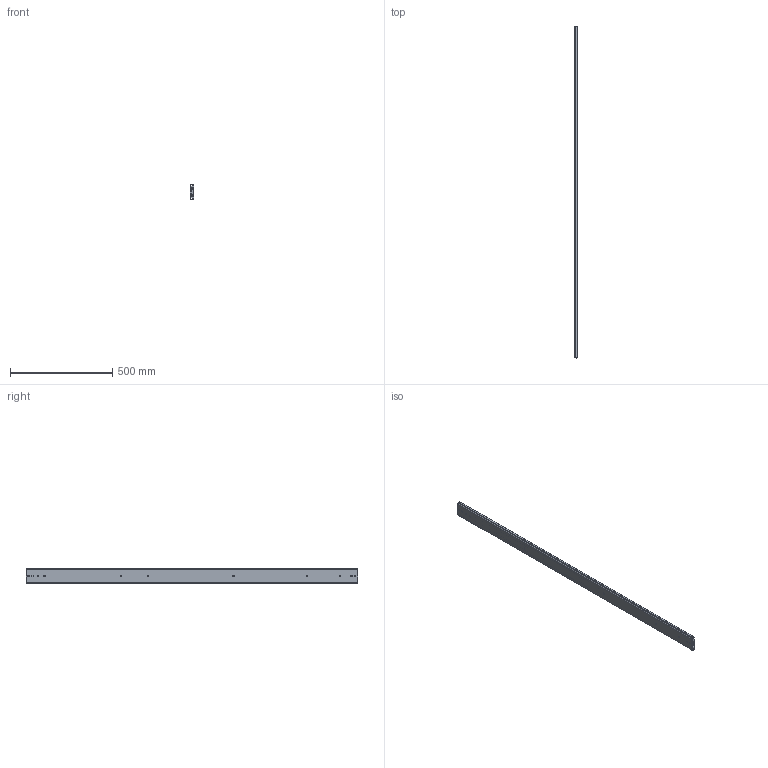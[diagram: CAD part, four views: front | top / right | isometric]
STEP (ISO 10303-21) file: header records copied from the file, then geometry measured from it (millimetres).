
FILE_DESCRIPTION(/* description */ ('Unknown'),/* implementation_level */ '2;1');
FILE_NAME(/* name */ '76J01-64 close',/* time_stamp */ '2024-07-30T14:13:07+08:00',/* author */ ('Unknown'),/* organization */ ('Unknown'),/* preprocessor_version */ 'ST-DEVELOPER v18.104',/* originating_system */ 'Solid Edge',/* authorisation */ 'Unknown');
FILE_SCHEMA (('AUTOMOTIVE_DESIGN {1 0 10303 214 3 1 1}'));
Length unit declared in the file: millimetre
Products named in the file (4): 76J01-64 close; 76J01 64 inch 內; 76J01 64 ｦT倶ｸｭ.par:1; 76J01 64 ｦTﾋ
Assembly tree (3 placements, depth 2):
  76J01-64 close
    76J01 64 inch 內
    76J01 64 ｦT倶ｸｭ.par:1
    76J01 64 ｦTﾋ
Bounding box: 19.3 x 1625.6 x 76.76 mm (x, y, z)
Volume: 1286541.9 mm3; surface area: 799466.3 mm2
Topology: 3 solids, 3 shells, 196 faces, 606 edges, 410 vertices
Faces by surface type: plane 104, cylinder 92
Full cylindrical faces by diameter (mm): 5.2 x16, 7.1 x2
Entity records: 7179 total; most frequent: CARTESIAN_POINT 1168, DIRECTION 1152, ORIENTED_EDGE 1140, EDGE_CURVE 570, VERTEX_POINT 392, LINE 384, VECTOR 384, AXIS2_PLACEMENT_3D 384
